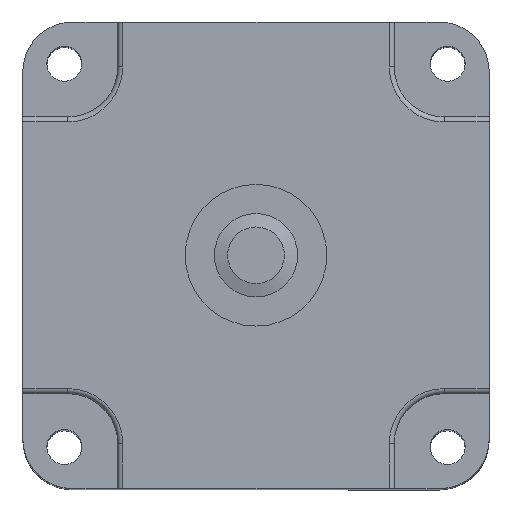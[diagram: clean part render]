
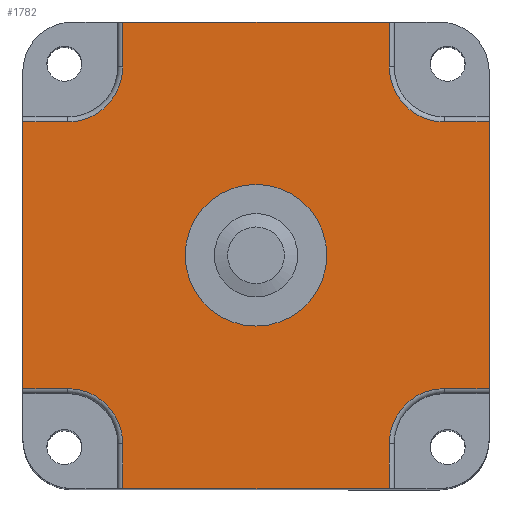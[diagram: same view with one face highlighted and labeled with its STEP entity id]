
A CAD part, top view. The second image highlights one B-rep face of the part: STEP entity #1782.
In plain terms, the highlighted planar face has unit normal (0, 0, 1).
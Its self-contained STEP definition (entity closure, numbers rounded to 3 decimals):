
#1194=CARTESIAN_POINT('',(14.,9.75,50.));
#1195=VERTEX_POINT('',#1194);
#1202=CARTESIAN_POINT('',(14.,14.,50.));
#1203=DIRECTION('',(0.,-1.,0.));
#1204=DIRECTION('',(0.,0.,1.));
#1205=AXIS2_PLACEMENT_3D('',#1202,#1204,#1203);
#1206=CIRCLE('',#1205,4.25);
#1207=EDGE_CURVE('',#1195,#1195,#1206,.T.);
#1417=CARTESIAN_POINT('',(0.,6.,50.));
#1418=VERTEX_POINT('',#1417);
#1426=CARTESIAN_POINT('',(0.,22.,50.));
#1427=VERTEX_POINT('',#1426);
#1428=CARTESIAN_POINT('',(0.,22.,50.));
#1429=DIRECTION('',(0.,-1.,0.));
#1430=VECTOR('',#1429,16.);
#1431=LINE('',#1428,#1430);
#1432=EDGE_CURVE('',#1427,#1418,#1431,.T.);
#1488=CARTESIAN_POINT('',(22.,0.,50.));
#1489=VERTEX_POINT('',#1488);
#1497=CARTESIAN_POINT('',(6.,0.,50.));
#1498=VERTEX_POINT('',#1497);
#1499=CARTESIAN_POINT('',(6.,0.,50.));
#1500=DIRECTION('',(1.,0.,0.));
#1501=VECTOR('',#1500,16.);
#1502=LINE('',#1499,#1501);
#1503=EDGE_CURVE('',#1498,#1489,#1502,.T.);
#1560=CARTESIAN_POINT('',(28.,22.,50.));
#1561=VERTEX_POINT('',#1560);
#1569=CARTESIAN_POINT('',(28.,6.,50.));
#1570=VERTEX_POINT('',#1569);
#1571=CARTESIAN_POINT('',(28.,6.,50.));
#1572=DIRECTION('',(0.,1.,0.));
#1573=VECTOR('',#1572,16.);
#1574=LINE('',#1571,#1573);
#1575=EDGE_CURVE('',#1570,#1561,#1574,.T.);
#1632=CARTESIAN_POINT('',(6.,28.,50.));
#1633=VERTEX_POINT('',#1632);
#1641=CARTESIAN_POINT('',(22.,28.,50.));
#1642=VERTEX_POINT('',#1641);
#1643=CARTESIAN_POINT('',(22.,28.,50.));
#1644=DIRECTION('',(-1.,0.,0.));
#1645=VECTOR('',#1644,16.);
#1646=LINE('',#1643,#1645);
#1647=EDGE_CURVE('',#1642,#1633,#1646,.T.);
#1676=CARTESIAN_POINT('',(14.,14.,50.));
#1677=DIRECTION('',(1.,0.,0.));
#1678=DIRECTION('',(0.,0.,1.));
#1679=AXIS2_PLACEMENT_3D('',#1676,#1678,#1677);
#1680=PLANE('',#1679);
#1681=ORIENTED_EDGE('',*,*,#1432,.T.);
#1682=CARTESIAN_POINT('',(2.7,6.,50.));
#1683=VERTEX_POINT('',#1682);
#1684=CARTESIAN_POINT('',(2.7,6.,50.));
#1685=DIRECTION('',(-1.,0.,0.));
#1686=VECTOR('',#1685,2.7);
#1687=LINE('',#1684,#1686);
#1688=EDGE_CURVE('',#1683,#1418,#1687,.T.);
#1689=ORIENTED_EDGE('E180',*,*,#1688,.F.);
#1690=CARTESIAN_POINT('',(6.,2.7,50.));
#1691=VERTEX_POINT('',#1690);
#1692=CARTESIAN_POINT('',(2.7,2.7,50.));
#1693=DIRECTION('',(1.,0.,0.));
#1694=DIRECTION('',(0.,0.,1.));
#1695=AXIS2_PLACEMENT_3D('',#1692,#1694,#1693);
#1696=CIRCLE('',#1695,3.3);
#1697=EDGE_CURVE('',#1691,#1683,#1696,.T.);
#1698=ORIENTED_EDGE('E178',*,*,#1697,.F.);
#1699=CARTESIAN_POINT('',(6.,0.,50.));
#1700=DIRECTION('',(0.,1.,0.));
#1701=VECTOR('',#1700,2.7);
#1702=LINE('',#1699,#1701);
#1703=EDGE_CURVE('',#1498,#1691,#1702,.T.);
#1704=ORIENTED_EDGE('E176',*,*,#1703,.F.);
#1705=ORIENTED_EDGE('E176',*,*,#1503,.T.);
#1706=CARTESIAN_POINT('',(22.,2.7,50.));
#1707=VERTEX_POINT('',#1706);
#1708=CARTESIAN_POINT('',(22.,2.7,50.));
#1709=DIRECTION('',(0.,-1.,0.));
#1710=VECTOR('',#1709,2.7);
#1711=LINE('',#1708,#1710);
#1712=EDGE_CURVE('',#1707,#1489,#1711,.T.);
#1713=ORIENTED_EDGE('E190',*,*,#1712,.F.);
#1714=CARTESIAN_POINT('',(25.3,6.,50.));
#1715=VERTEX_POINT('',#1714);
#1716=CARTESIAN_POINT('',(25.3,2.7,50.));
#1717=DIRECTION('',(0.,1.,0.));
#1718=DIRECTION('',(0.,0.,1.));
#1719=AXIS2_PLACEMENT_3D('',#1716,#1718,#1717);
#1720=CIRCLE('',#1719,3.3);
#1721=EDGE_CURVE('',#1715,#1707,#1720,.T.);
#1722=ORIENTED_EDGE('E188',*,*,#1721,.F.);
#1723=CARTESIAN_POINT('',(28.,6.,50.));
#1724=DIRECTION('',(-1.,0.,0.));
#1725=VECTOR('',#1724,2.7);
#1726=LINE('',#1723,#1725);
#1727=EDGE_CURVE('',#1570,#1715,#1726,.T.);
#1728=ORIENTED_EDGE('E186',*,*,#1727,.F.);
#1729=ORIENTED_EDGE('E186',*,*,#1575,.T.);
#1730=CARTESIAN_POINT('',(25.3,22.,50.));
#1731=VERTEX_POINT('',#1730);
#1732=CARTESIAN_POINT('',(25.3,22.,50.));
#1733=DIRECTION('',(1.,0.,0.));
#1734=VECTOR('',#1733,2.7);
#1735=LINE('',#1732,#1734);
#1736=EDGE_CURVE('',#1731,#1561,#1735,.T.);
#1737=ORIENTED_EDGE('E200',*,*,#1736,.F.);
#1738=CARTESIAN_POINT('',(22.,25.3,50.));
#1739=VERTEX_POINT('',#1738);
#1740=CARTESIAN_POINT('',(25.3,25.3,50.));
#1741=DIRECTION('',(-1.,0.,0.));
#1742=DIRECTION('',(0.,0.,1.));
#1743=AXIS2_PLACEMENT_3D('',#1740,#1742,#1741);
#1744=CIRCLE('',#1743,3.3);
#1745=EDGE_CURVE('',#1739,#1731,#1744,.T.);
#1746=ORIENTED_EDGE('E198',*,*,#1745,.F.);
#1747=CARTESIAN_POINT('',(22.,28.,50.));
#1748=DIRECTION('',(0.,-1.,0.));
#1749=VECTOR('',#1748,2.7);
#1750=LINE('',#1747,#1749);
#1751=EDGE_CURVE('',#1642,#1739,#1750,.T.);
#1752=ORIENTED_EDGE('E196',*,*,#1751,.F.);
#1753=ORIENTED_EDGE('E196',*,*,#1647,.T.);
#1754=CARTESIAN_POINT('',(6.,25.3,50.));
#1755=VERTEX_POINT('',#1754);
#1756=CARTESIAN_POINT('',(6.,25.3,50.));
#1757=DIRECTION('',(0.,1.,0.));
#1758=VECTOR('',#1757,2.7);
#1759=LINE('',#1756,#1758);
#1760=EDGE_CURVE('',#1755,#1633,#1759,.T.);
#1761=ORIENTED_EDGE('E170',*,*,#1760,.F.);
#1762=CARTESIAN_POINT('',(2.7,22.,50.));
#1763=VERTEX_POINT('',#1762);
#1764=CARTESIAN_POINT('',(2.7,25.3,50.));
#1765=DIRECTION('',(0.,-1.,0.));
#1766=DIRECTION('',(0.,0.,1.));
#1767=AXIS2_PLACEMENT_3D('',#1764,#1766,#1765);
#1768=CIRCLE('',#1767,3.3);
#1769=EDGE_CURVE('',#1763,#1755,#1768,.T.);
#1770=ORIENTED_EDGE('E168',*,*,#1769,.F.);
#1771=CARTESIAN_POINT('',(0.,22.,50.));
#1772=DIRECTION('',(1.,0.,0.));
#1773=VECTOR('',#1772,2.7);
#1774=LINE('',#1771,#1773);
#1775=EDGE_CURVE('',#1427,#1763,#1774,.T.);
#1776=ORIENTED_EDGE('E166',*,*,#1775,.F.);
#1777=EDGE_LOOP('',(#1681,#1689,#1698,#1704,#1705,#1713,#1722,#1728,#1729,#1737,#1746,#1752,#1753,#1761,#1770,#1776));
#1778=FACE_OUTER_BOUND('',#1777,.T.);
#1779=ORIENTED_EDGE('',*,*,#1207,.F.);
#1780=EDGE_LOOP('',(#1779));
#1781=FACE_BOUND('',#1780,.T.);
#1782=ADVANCED_FACE('F22',(#1778,#1781),#1680,.T.);
